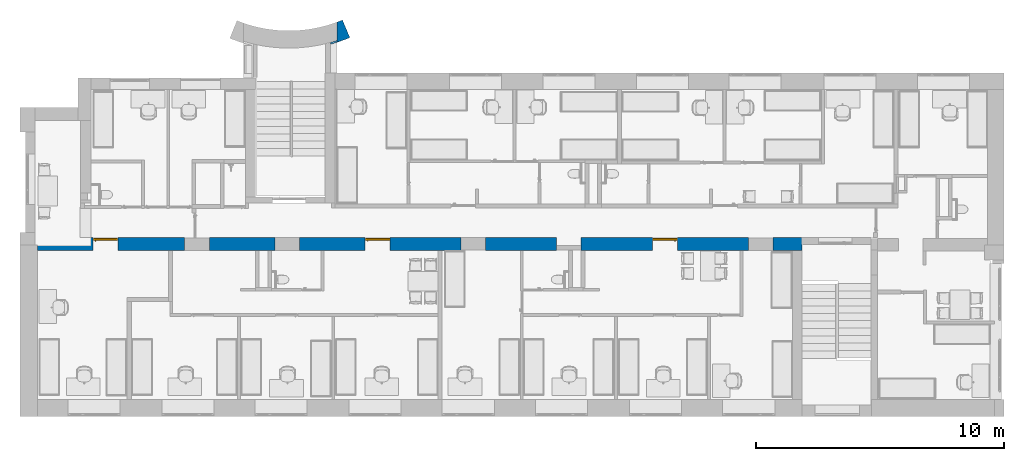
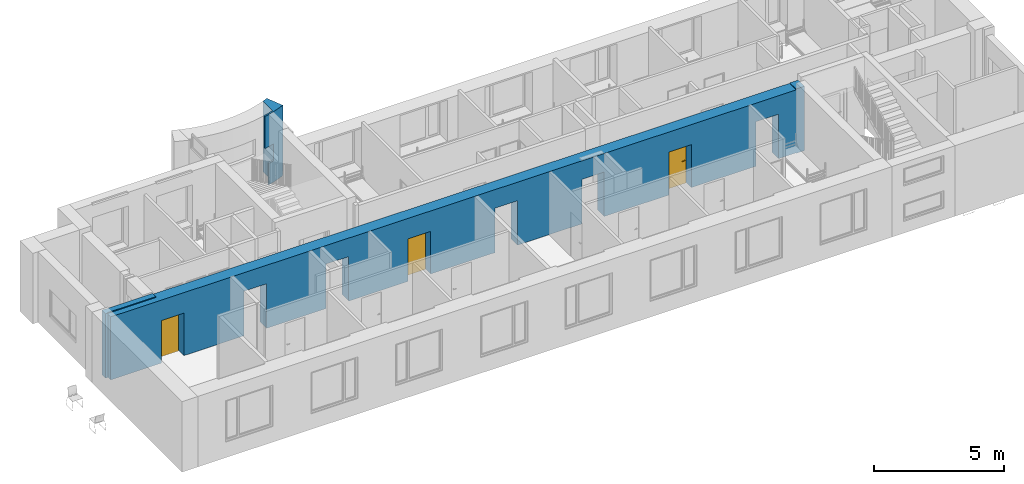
# One storey, part 16 of 48: 3 doors, 2 walls, 3 openings.
"""IFC2X3 building model written with IfcOpenShell, lengths in millimetres."""

from ifc_helpers import new_model, entity, si_unit, converted_unit, derived_unit, direction, frame, frame_2d, origin, place, context, subcontext, project, spatial, rectangle, extrude, faceted_brep, source, transform, mapped, material, material_list, layer, layer_set, type_object, type_shapes, element, fill, save


model = new_model("IFC2X3")

# Units and contexts
model_context = context("Model", 3, precision=0.01, world=origin(), true_north=direction((6.12303176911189e-17, 1.0)))
body_context = subcontext(model_context, "Body", "Model", "MODEL_VIEW")
ifc_project = project(units=[si_unit("LENGTHUNIT", "METRE", prefix="MILLI"), si_unit("AREAUNIT", "SQUARE_METRE"), si_unit("VOLUMEUNIT", "CUBIC_METRE"), converted_unit("PLANEANGLEUNIT", "DEGREE", entity("IfcRatioMeasure", 0.0174532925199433), si_unit("PLANEANGLEUNIT", "RADIAN"), dimensions=[0, 0, 0, 0, 0, 0, 0]), si_unit("MASSUNIT", "GRAM", prefix="KILO"), derived_unit("MASSDENSITYUNIT", [(si_unit("MASSUNIT", "GRAM", prefix="KILO"), 1), (si_unit("LENGTHUNIT", "METRE"), -3)]), si_unit("TIMEUNIT", "SECOND"), si_unit("FREQUENCYUNIT", "HERTZ"), si_unit("THERMODYNAMICTEMPERATUREUNIT", "DEGREE_CELSIUS"), derived_unit("THERMALTRANSMITTANCEUNIT", [(si_unit("MASSUNIT", "GRAM", prefix="KILO"), 1), (si_unit("THERMODYNAMICTEMPERATUREUNIT", "KELVIN"), -1), (si_unit("TIMEUNIT", "SECOND"), -3)]), derived_unit("VOLUMETRICFLOWRATEUNIT", [(si_unit("LENGTHUNIT", "METRE"), 3), (si_unit("TIMEUNIT", "SECOND"), -1)]), si_unit("ELECTRICCURRENTUNIT", "AMPERE"), si_unit("ELECTRICVOLTAGEUNIT", "VOLT"), si_unit("POWERUNIT", "WATT"), si_unit("FORCEUNIT", "NEWTON", prefix="KILO"), si_unit("ILLUMINANCEUNIT", "LUX"), si_unit("LUMINOUSFLUXUNIT", "LUMEN"), si_unit("LUMINOUSINTENSITYUNIT", "CANDELA"), derived_unit("USERDEFINED", [(si_unit("MASSUNIT", "GRAM", prefix="KILO"), -1), (si_unit("LENGTHUNIT", "METRE"), -2), (si_unit("TIMEUNIT", "SECOND"), 3), (si_unit("LUMINOUSFLUXUNIT", "LUMEN"), 1)]), derived_unit("LINEARVELOCITYUNIT", [(si_unit("LENGTHUNIT", "METRE"), 1), (si_unit("TIMEUNIT", "SECOND"), -1)]), si_unit("PRESSUREUNIT", "PASCAL"), derived_unit("USERDEFINED", [(si_unit("LENGTHUNIT", "METRE"), -2), (si_unit("MASSUNIT", "GRAM", prefix="KILO"), 1), (si_unit("TIMEUNIT", "SECOND"), -2)]), derived_unit("LINEARFORCEUNIT", [(si_unit("MASSUNIT", "GRAM", prefix="KILO"), 1), (si_unit("LENGTHUNIT", "METRE"), 1), (si_unit("TIMEUNIT", "SECOND"), -2), (si_unit("LENGTHUNIT", "METRE"), -1)]), derived_unit("PLANARFORCEUNIT", [(si_unit("MASSUNIT", "GRAM", prefix="KILO"), 1), (si_unit("LENGTHUNIT", "METRE"), 1), (si_unit("TIMEUNIT", "SECOND"), -2), (si_unit("LENGTHUNIT", "METRE"), -2)])], contexts=[model_context])

# Site, building, storey
site_placement = place(None, origin())
site = spatial("IfcSite", under=ifc_project, at=site_placement, Name="Default", CompositionType="ELEMENT")
building_placement = place(site_placement, origin())
building = spatial("IfcBuilding", under=site, at=building_placement, Name="SMA ARH", CompositionType="ELEMENT")
storey_placement = place(building_placement, frame((0.0, 0.0, 6600.0)))
storey = spatial("IfcBuildingStorey", under=building, at=storey_placement, Name="3 Korrus", CompositionType="ELEMENT", Elevation=6599.99999999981)

# Wall
ifc_material_1 = material(Name="_ol.olev sein")
ifc_layer_1 = layer(ifc_material_1, 770.0)
ifc_layer_set_1 = layer_set([ifc_layer_1], Name="Basic Wall:Generic - 770mm")
wall_type_1 = type_object("IfcWallType", Name="Basic Wall:Generic - 770mm", PredefinedType="STANDARD", material=ifc_layer_set_1)
wall_1_placement = place(storey_placement, frame((12448.9734496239, 14937.1863077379, 0.0)))
element("IfcWall", 1, at=wall_1_placement, inside=storey, type_object=wall_type_1, Name="Basic Wall:Generic - 770mm", ObjectType="Basic Wall:Generic - 770mm", context=body_context, shape_type="Brep", body=[
    faceted_brep([(-602.786673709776, -540.584389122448, 3310.0), (-602.786673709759, -540.584389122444, 1800.0), (-828.973449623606, -600.013994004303, 1800.0), (-828.973449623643, -600.013994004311, 3310.0), (-378.973449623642, -472.761264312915, 3310.0), (-378.973449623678, -472.761264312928, 1800.0), (-828.973449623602, -674.876900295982, 3310.0), (-728.751367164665, -650.029625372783, 3310.0), (-628.960471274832, -623.557015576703, 3310.0), (-503.595459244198, -587.815741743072, 3310.0), (-378.967082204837, -549.496398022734, 3310.0), (-201.093594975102, -489.884888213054, 3310.0), (-25.0650910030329, -425.038182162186, 3310.0), (148.984988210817, -355.004891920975, 3310.0), (-148.984988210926, 355.004891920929, 3310.0), (-263.490039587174, 308.438006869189, 3310.0), (-378.973449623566, 264.433382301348, 3310.0), (-263.491884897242, 308.43728017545, 0.0), (-148.984988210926, 355.004891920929, 0.0), (148.98498821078, -355.00489192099, 0.0), (-25.068184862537, -425.039374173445, 0.0), (-201.091802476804, -489.884257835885, 0.0), (-378.969362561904, -549.49727269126, 0.0), (-503.577045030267, -587.810286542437, 0.0), (-628.973449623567, -623.560656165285, 0.0), (-628.973449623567, -620.553870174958, 0.0), (-628.973449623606, -547.928288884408, 0.0), (-503.582212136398, -511.646003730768, 0.0), (-378.973449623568, -472.761264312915, 0.0), (-378.973449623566, 264.433382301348, 0.0), (-503.59268185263, -587.814918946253, 1000.0), (-503.601693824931, -587.8175887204, 1800.0), (-378.973449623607, -549.498582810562, 1800.0), (-628.973449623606, -623.560656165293, 1000.0), (-628.973449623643, -623.560656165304, 1800.0), (-828.973449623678, -674.876900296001, 1800.0), (-728.754697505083, -650.030479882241, 1800.0), (-378.973449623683, -549.498582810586, 1000.0), (-148.984988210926, 355.004891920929, 651.494117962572), (-148.984988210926, 355.004891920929, 1655.0), (-148.984988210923, 355.004891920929, 2658.50588203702), (-287.588823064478, 299.012360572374, 823.966836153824), (-268.083666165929, 306.631359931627, 1655.0), (-378.973449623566, 264.433382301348, 1302.98823579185), (-378.973449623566, 264.433382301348, 2007.01176420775), (-287.588738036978, 299.012393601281, 2486.03471957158), (-628.973449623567, -547.928288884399, 1000.0), (-378.973449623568, -472.761264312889, 1000.0), (-503.582212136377, -511.646003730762, 1000.0)], [[[0, 1, 2, 3]], [[4, 5, 1, 0]], [[0, 3, 6, 7, 8, 9, 10, 11, 12, 13, 14, 15, 16, 4]], [[17, 18, 19, 20, 21, 22, 23, 24, 25, 26, 27, 28, 29]], [[30, 24, 23]], [[9, 31, 32]], [[30, 33, 24]], [[34, 31, 8]], [[6, 35, 36]], [[6, 36, 7]], [[7, 36, 34]], [[7, 34, 8]], [[31, 9, 8]], [[37, 23, 22]], [[37, 21, 20]], [[22, 21, 37]], [[12, 20, 19]], [[11, 10, 32]], [[10, 9, 32]], [[32, 37, 20]], [[12, 11, 32]], [[32, 20, 12]], [[19, 13, 12]], [[30, 23, 37]], [[14, 13, 19, 18, 38, 39, 40]], [[41, 42, 38]], [[42, 40, 39, 38]], [[43, 44, 42]], [[45, 15, 40]], [[41, 17, 29]], [[43, 41, 29]], [[41, 43, 42]], [[38, 18, 17]], [[45, 44, 16]], [[42, 44, 45]], [[15, 14, 40]], [[17, 41, 38]], [[42, 45, 40]], [[15, 45, 16]], [[46, 26, 25, 24, 33]], [[3, 2, 35, 6]], [[47, 37, 32, 5, 4, 16, 44, 43, 29, 28]], [[48, 46, 33, 30, 37, 47]], [[31, 34, 36, 35, 2, 1, 5, 32]], [[48, 27, 26, 46]], [[47, 28, 27, 48]]]),
])

# Wall, openings, doors
ifc_layer_2 = layer(ifc_material_1, 510.0)
ifc_layer_set_2 = layer_set([ifc_layer_2], Name="Basic Wall:Generic - 510mm")
wall_type_2 = type_object("IfcWallType", Name="Basic Wall:Generic - 510mm", PredefinedType="STANDARD", material=ifc_layer_set_2)
wall_2_placement = place(storey_placement, frame((-100.0, 6260.0, 0.0)))
wall_2 = element("IfcWall", 2, at=wall_2_placement, inside=storey, type_object=wall_type_2, Name="Basic Wall:Generic - 510mm", ObjectType="Basic Wall:Generic - 510mm", context=body_context, shape_type="Brep", body=[
    faceted_brep([(2348.0, -255.0, 2020.0), (3348.0, -255.0, 2020.0), (3348.0, -255.0, 20.0), (6030.0, -255.0, 20.0), (6030.0, -255.0, 2110.0), (7030.0, -255.0, 2110.0), (7030.0, -255.0, 20.0), (9675.0, -255.0, 20.0), (9675.0, -255.0, 2110.0), (10675.0, -255.0, 2110.0), (10675.0, -255.0, 20.0), (13318.0, -255.0, 20.0), (13318.0, -255.0, 2020.0), (14318.0, -255.0, 2020.0), (14318.0, -255.0, 20.0), (16258.0, -255.0, 20.0), (16420.5, -255.0, 20.0), (17175.0, -255.0, 20.0), (17175.0, -255.0, 2110.0), (18175.0, -255.0, 2110.0), (18175.0, -255.0, 20.0), (21030.0, -255.0, 20.0), (21030.0, -255.0, 2110.0), (22020.0, -255.0, 2110.0), (22020.0, -255.0, 20.0), (24903.9550000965, -255.0, 20.0), (24903.9550000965, -255.0, 2040.0), (25903.9550000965, -255.0, 2040.0), (25903.9550000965, -255.0, 20.0), (28765.0, -255.0, 20.0), (28765.0, -255.0, 2110.0), (29765.0, -255.0, 2110.0), (29765.0, -255.0, 20.0), (30550.0, -255.0, 20.0), (30550.0, -255.0, 0.0), (30930.0, -255.0, 0.0), (30930.0, -255.0, 3020.0), (30550.0, -255.0, 3020.0), (30550.0, -255.0, 2980.0), (9540.0, -255.0, 2980.0), (9390.0, -255.0, 2980.0), (100.0, -255.0, 2980.0), (100.0, -255.0, 20.0), (2348.0, -255.0, 20.0), (0.0, 255.0, 0.0), (0.0, 255.0, 3020.0), (2265.0, 255.0, 3020.0), (2265.0, 255.0, 2980.0), (30930.0, 255.0, 2980.0), (30930.0, 255.0, 20.0), (29765.0, 255.0, 20.0), (29765.0, 255.0, 2110.0), (28765.0, 255.0, 2110.0), (28765.0, 255.0, 20.0), (25903.9550000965, 255.0, 20.0), (25903.9550000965, 255.0, 2040.0), (24903.9550000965, 255.0, 2040.0), (24903.9550000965, 255.0, 20.0), (22020.0, 255.0, 20.0), (22020.0, 255.0, 2110.0), (21030.0, 255.0, 2110.0), (21030.0, 255.0, 20.0), (18175.0, 255.0, 20.0), (18175.0, 255.0, 2110.0), (17175.0, 255.0, 2110.0), (17175.0, 255.0, 20.0), (14318.0, 255.0, 20.0), (14318.0, 255.0, 2020.0), (13318.0, 255.0, 2020.0), (13318.0, 255.0, 20.0), (10675.0, 255.0, 20.0), (10675.0, 255.0, 2110.0), (9675.0, 255.0, 2110.0), (9675.0, 255.0, 20.0), (7030.0, 255.0, 20.0), (7030.0, 255.0, 2110.0), (6497.82130046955, 255.0, 2110.0), (6335.32130046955, 255.0, 2110.0), (6030.0, 255.0, 2110.0), (6030.0, 255.0, 20.0), (3348.0, 255.0, 20.0), (3348.0, 255.0, 2020.0), (2348.0, 255.0, 2020.0), (2348.0, 255.0, 20.0), (2265.0, 255.0, 20.0), (2265.0, 255.0, 0.0), (30550.0, 250.0, 0.0), (30930.0, 250.0, 0.0), (30930.0, -20.0, 0.0), (30930.0, 230.0, 3020.0), (30550.0, 230.0, 3020.0), (17175.0, -250.0, 2110.0), (18175.0, -250.0, 2110.0), (6030.0, 250.0, 2110.0), (7030.0, 250.0, 2110.0), (28765.0, 250.0, 2110.0), (29765.0, 250.0, 2110.0), (30930.0, 250.0, 20.0), (30550.0, 250.0, 20.0), (100.0, -15.0, 20.0), (100.0, -35.0, 20.0), (100.0, -35.0, 0.0), (100.0, -15.0, 0.0), (2265.0, -15.0, 20.0), (2265.0, -15.0, 0.0), (100.0, -35.0, 2980.0), (100.0, -35.0, 3020.0), (0.0, -35.0, 3020.0), (0.0, -35.0, 0.0), (30930.0, 230.0, 2980.0), (2265.0, 5.0, 2980.0), (100.0, 5.0, 2980.0), (30550.0, 230.0, 2980.0), (100.0, 5.0, 3020.0), (2265.0, 5.0, 3020.0)], [[[0, 1, 2, 3, 4, 5, 6, 7, 8, 9, 10, 11, 12, 13, 14, 15, 16, 17, 18, 19, 20, 21, 22, 23, 24, 25, 26, 27, 28, 29, 30, 31, 32, 33, 34, 35, 36, 37, 38, 39, 40, 41, 42, 43]], [[44, 45, 46, 47, 48, 49, 50, 51, 52, 53, 54, 55, 56, 57, 58, 59, 60, 61, 62, 63, 64, 65, 66, 67, 68, 69, 70, 71, 72, 73, 74, 75, 76, 77, 78, 79, 80, 81, 82, 83, 84, 85]], [[35, 34, 86, 87, 88]], [[37, 36, 89, 90]], [[1, 81, 80, 2]], [[1, 0, 82, 81]], [[82, 0, 43, 83]], [[13, 67, 66, 14]], [[13, 12, 68, 67]], [[68, 12, 11, 69]], [[56, 26, 25, 57]], [[26, 56, 55, 27]], [[27, 55, 54, 28]], [[18, 91, 64, 63, 92, 19]], [[64, 91, 18, 17, 65]], [[19, 92, 63, 62, 20]], [[22, 60, 59, 23]], [[60, 22, 21, 61]], [[8, 72, 71, 9]], [[72, 8, 7, 73]], [[9, 71, 70, 10]], [[4, 93, 78, 77, 76, 75, 94, 5]], [[78, 93, 4, 3, 79]], [[5, 94, 75, 74, 6]], [[30, 95, 52, 51, 96, 31]], [[52, 95, 30, 29, 53]], [[31, 96, 51, 50, 32]], [[23, 59, 58, 24]], [[97, 98, 33, 32, 50, 49]], [[99, 100, 101, 102]], [[103, 99, 102, 104]], [[33, 98, 86, 34]], [[41, 105, 100, 42]], [[106, 107, 108, 101, 100, 105]], [[45, 44, 108, 107]], [[36, 35, 88, 87, 97, 49, 48, 109, 89]], [[98, 97, 87, 86]], [[84, 103, 104, 85]], [[110, 111, 105, 41, 40, 39, 38, 112, 109, 48, 47]], [[105, 111, 113, 106]], [[111, 110, 114, 113]], [[110, 47, 46, 114]], [[109, 112, 90, 89]], [[112, 38, 37, 90]], [[99, 103, 84, 83, 43, 42, 100]], [[3, 2, 80, 79]], [[7, 6, 74, 73]], [[11, 10, 70, 69]], [[17, 16, 15, 14, 66, 65]], [[21, 20, 62, 61]], [[25, 24, 58, 57]], [[29, 28, 54, 53]], [[45, 107, 106, 113, 114, 46]], [[101, 108, 44, 85, 104, 102]]]),
])
opening_1_placement = place(wall_2_placement, frame((3348.0, 255.0, 0.0)))
opening_1 = element("IfcOpeningElement", 3, at=opening_1_placement, cuts=wall_2, Name="SMA_D01, 1-poolne:SU-P-09 - 1000x2020:1", ObjectType="Opening", context=body_context, shape_type="SweptSolid", body=[
    extrude(rectangle(XDim=2019.99999999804, YDim=1000.0, at=frame_2d((1009.99999999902, 500.0), x_axis=(1.0, 0.0))), frame((0.0, 0.0, 0.0), z_axis=(0.0, -1.0, 0.0), x_axis=(0.0, 0.0, 1.0)), (0.0, 0.0, 1.0), 510.0),
])
opening_2_placement = place(wall_2_placement, frame((14318.0, 255.0, 0.0)))
opening_2 = element("IfcOpeningElement", 4, at=opening_2_placement, cuts=wall_2, Name="SMA_D01, 1-poolne:SU-P-04 - 1000x2020 EI-30:1", ObjectType="Opening", context=body_context, shape_type="SweptSolid", body=[
    extrude(rectangle(XDim=2019.99999999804, YDim=1000.0, at=frame_2d((1009.99999999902, 500.000000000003), x_axis=(1.0, 0.0))), frame((0.0, 0.0, 0.0), z_axis=(0.0, -1.0, 0.0), x_axis=(0.0, 0.0, 1.0)), (0.0, 0.0, 1.0), 510.0),
])
opening_3_placement = place(wall_2_placement, frame((25903.9550000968, 255.0, 0.0)))
opening_3 = element("IfcOpeningElement", 5, at=opening_3_placement, cuts=wall_2, Name="SMA_D01, 1-poolne:SU-P-04 - 1000x2040 EI-30:1", ObjectType="Opening", context=body_context, shape_type="SweptSolid", body=[
    extrude(rectangle(XDim=2039.99999999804, YDim=1000.0, at=frame_2d((1019.99999999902, 500.0), x_axis=(1.0, 0.0))), frame((0.0, 0.0, 0.0), z_axis=(0.0, -1.0, 0.0), x_axis=(0.0, 0.0, 1.0)), (0.0, 0.0, 1.0), 510.0),
])
ifc_material_2 = material(Name="EST. Metall. Alumiinium. Värvitud. RAL7023 (Concrete grey)")
ifc_material_3 = material(Name="EST. Klaas. 3x. Default")
ifc_material_4 = material(Name="<Unnamed>")
ifc_material_list_1 = material_list([ifc_material_3, ifc_material_4, ifc_material_2, ifc_material_2, ifc_material_4, ifc_material_2, ifc_material_4])
door_style_1 = type_object("IfcDoorStyle", Name="SMA_D01, 1-poolne:SU-P-09 - 1000x2020", ConstructionType="NOTDEFINED", OperationType="NOTDEFINED", ParameterTakesPrecedence=False, Sizeable=False, material=ifc_material_list_1)
shared_shape_1 = source(origin(), body_context, "Body", "Brep", [
    faceted_brep([(890.0, 20.0, 1112.5), (795.0, 20.0, 1112.5), (795.0, 15.0, 1112.5), (915.0, 15.0, 1112.5), (915.0, 58.0, 1112.5), (890.0, 58.0, 1112.5), (890.0, 20.0, 1087.5), (890.0, 58.0, 1087.5), (915.0, 58.0, 1087.5), (915.0, 15.0, 1087.5), (795.0, 15.0, 1087.5), (795.0, 20.0, 1087.5)], [[[0, 1, 2, 3, 4, 5]], [[6, 7, 8, 9, 10, 11]], [[5, 7, 6, 0]], [[4, 8, 7, 5]], [[3, 9, 8, 4]], [[2, 10, 9, 3]], [[1, 11, 10, 2]], [[0, 6, 11, 1]]]),
    faceted_brep([(877.500000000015, 58.0, 1137.5), (927.500000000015, 58.0, 1137.5), (927.500000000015, 60.0, 1137.5), (877.500000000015, 60.0, 1137.5), (877.500000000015, 58.0, 1017.5), (877.500000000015, 60.0, 1017.5), (927.500000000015, 60.0, 1017.5), (927.500000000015, 58.0, 1017.5)], [[[0, 1, 2, 3]], [[4, 5, 6, 7]], [[3, 5, 4, 0]], [[2, 6, 5, 3]], [[1, 7, 6, 2]], [[0, 4, 7, 1]]]),
    faceted_brep([(890.0, 150.0, 1112.5), (890.0, 112.0, 1112.5), (915.0, 112.0, 1112.5), (915.0, 155.0, 1112.5), (795.0, 155.0, 1112.5), (795.0, 150.0, 1112.5), (890.0, 150.0, 1087.5), (795.0, 150.0, 1087.5), (795.0, 155.0, 1087.5), (915.0, 155.0, 1087.5), (915.0, 112.0, 1087.5), (890.0, 112.0, 1087.5)], [[[0, 1, 2, 3, 4, 5]], [[6, 7, 8, 9, 10, 11]], [[1, 0, 6, 11]], [[2, 1, 11, 10]], [[3, 2, 10, 9]], [[4, 3, 9, 8]], [[5, 4, 8, 7]], [[0, 5, 7, 6]]]),
    faceted_brep([(877.500000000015, 112.0, 1137.5), (877.500000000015, 110.0, 1137.5), (927.500000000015, 110.0, 1137.5), (927.500000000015, 112.0, 1137.5), (877.500000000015, 112.0, 1017.5), (927.500000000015, 112.0, 1017.5), (927.500000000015, 110.0, 1017.5), (877.500000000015, 110.0, 1017.5)], [[[0, 1, 2, 3]], [[4, 5, 6, 7]], [[1, 0, 4, 7]], [[2, 1, 7, 6]], [[3, 2, 6, 5]], [[0, 3, 5, 4]]]),
    faceted_brep([(50.0, 20.0, 30.0), (50.0, 60.0, 30.0), (50.0, 60.0, 20.0), (50.0, 60.0, 0.0), (50.0, 20.0, 0.0), (950.0, 20.0, 30.0), (950.0, 20.0, 0.0), (950.0, 60.0, 0.0), (950.0, 60.0, 20.0), (950.0, 60.0, 30.0), (35.0, 60.0, 0.0), (35.0, 110.0, 0.0), (965.0, 110.0, 0.0), (965.0, 60.0, 0.0), (35.0, 110.0, 20.0), (35.0, 60.0, 20.0), (965.0, 110.0, 20.0), (965.0, 60.0, 20.0)], [[[0, 1, 2, 3, 4]], [[5, 6, 7, 8, 9]], [[4, 6, 5, 0]], [[3, 10, 11, 12, 13, 7, 6, 4]], [[9, 8, 2, 1]], [[0, 5, 9, 1]], [[14, 11, 10, 15]], [[16, 17, 13, 12]], [[15, 2, 8, 17, 16, 14]], [[10, 3, 2, 15]], [[14, 16, 12, 11]], [[17, 8, 7, 13]]]),
    faceted_brep([(10.0, 20.0, 0.0), (10.0, 110.0, 0.0), (35.0, 110.0, 0.0), (35.0, 60.0, 0.0), (50.0, 60.0, 0.0), (50.0, 20.0, 0.0), (50.0, 20.0, 1970.0), (950.0, 20.0, 1970.0), (950.0, 20.0, 0.0), (990.0, 20.0, 0.0), (990.0, 20.0, 2010.0), (10.0, 20.0, 2010.0), (50.0, 60.0, 1970.0), (35.0, 60.0, 1985.0), (965.0, 60.0, 1985.0), (965.0, 60.0, 0.0), (950.0, 60.0, 0.0), (950.0, 60.0, 1970.0), (35.0, 110.0, 1985.0), (10.0, 110.0, 2010.0), (990.0, 110.0, 2010.0), (990.0, 110.0, 0.0), (965.0, 110.0, 0.0), (965.0, 110.0, 1985.0)], [[[0, 1, 2, 3, 4, 5]], [[5, 6, 7, 8, 9, 10, 11, 0]], [[4, 12, 6, 5]], [[3, 13, 14, 15, 16, 17, 12, 4]], [[2, 18, 13, 3]], [[1, 19, 20, 21, 22, 23, 18, 2]], [[0, 11, 19, 1]], [[9, 21, 20, 10]], [[8, 16, 15, 22, 21, 9]], [[7, 17, 16, 8]], [[14, 23, 22, 15]], [[6, 12, 17, 7]], [[13, 18, 23, 14]], [[10, 20, 19, 11]]]),
    faceted_brep([(965.0, 60.0, 1985.0), (35.0, 60.0, 1985.0), (35.0, 60.0, 20.0), (965.0, 60.0, 20.0), (965.0, 110.0, 1985.0), (965.0, 110.0, 20.0), (35.0, 110.0, 20.0), (35.0, 110.0, 1985.0)], [[[0, 1, 2, 3]], [[4, 5, 6, 7]], [[3, 5, 4, 0]], [[2, 6, 5, 3]], [[1, 7, 6, 2]], [[0, 4, 7, 1]]]),
])
type_shapes(door_style_1, [shared_shape_1])
door_1_placement = place(opening_1_placement, frame((0.0, 0.0, 0.0), z_axis=(0.0, 0.0, 1.0), x_axis=(-1.0, 0.0, 0.0)))
door_1 = element("IfcDoor", 6, at=door_1_placement, inside=storey, type_object=door_style_1, material=ifc_material_2, Name="SMA_D01, 1-poolne:SU-P-09 - 1000x2020", ObjectType="SMA_D01, 1-poolne:SU-P-09 - 1000x2020", OverallHeight=2019.99999999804, OverallWidth=1000.0, context=body_context, shape_type="MappedRepresentation", body=[
    mapped(shared_shape_1, transform((0.0, 0.0, 0.0), scale=1.0)),
])
fill(opening_1, door_1)
ifc_material_list_2 = material_list([ifc_material_2, ifc_material_4, ifc_material_3, ifc_material_4, ifc_material_2, ifc_material_2, ifc_material_4])
door_style_2 = type_object("IfcDoorStyle", Name="SMA_D01, 1-poolne:SU-P-04 - 1000x2020 EI-30", ConstructionType="NOTDEFINED", OperationType="NOTDEFINED", ParameterTakesPrecedence=False, Sizeable=False, material=ifc_material_list_2)
shared_shape_2 = source(origin(), body_context, "Body", "Brep", [
    faceted_brep([(890.0, 20.0, 1112.5), (795.0, 20.0, 1112.5), (795.0, 15.0, 1112.5), (915.0, 15.0, 1112.5), (915.0, 58.0, 1112.5), (890.0, 58.0, 1112.5), (890.0, 20.0, 1087.5), (890.0, 58.0, 1087.5), (915.0, 58.0, 1087.5), (915.0, 15.0, 1087.5), (795.0, 15.0, 1087.5), (795.0, 20.0, 1087.5)], [[[0, 1, 2, 3, 4, 5]], [[6, 7, 8, 9, 10, 11]], [[5, 7, 6, 0]], [[4, 8, 7, 5]], [[3, 9, 8, 4]], [[2, 10, 9, 3]], [[1, 11, 10, 2]], [[0, 6, 11, 1]]]),
    faceted_brep([(877.500000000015, 58.0, 1137.5), (927.500000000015, 58.0, 1137.5), (927.500000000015, 60.0, 1137.5), (877.500000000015, 60.0, 1137.5), (877.500000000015, 58.0, 1017.5), (877.500000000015, 60.0, 1017.5), (927.500000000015, 60.0, 1017.5), (927.500000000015, 58.0, 1017.5)], [[[0, 1, 2, 3]], [[4, 5, 6, 7]], [[3, 5, 4, 0]], [[2, 6, 5, 3]], [[1, 7, 6, 2]], [[0, 4, 7, 1]]]),
    faceted_brep([(890.0, 150.0, 1112.5), (890.0, 112.0, 1112.5), (915.0, 112.0, 1112.5), (915.0, 155.0, 1112.5), (795.0, 155.0, 1112.5), (795.0, 150.0, 1112.5), (890.0, 150.0, 1087.5), (795.0, 150.0, 1087.5), (795.0, 155.0, 1087.5), (915.0, 155.0, 1087.5), (915.0, 112.0, 1087.5), (890.0, 112.0, 1087.5)], [[[0, 1, 2, 3, 4, 5]], [[6, 7, 8, 9, 10, 11]], [[1, 0, 6, 11]], [[2, 1, 11, 10]], [[3, 2, 10, 9]], [[4, 3, 9, 8]], [[5, 4, 8, 7]], [[0, 5, 7, 6]]]),
    faceted_brep([(877.500000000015, 112.0, 1137.5), (877.500000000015, 110.0, 1137.5), (927.500000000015, 110.0, 1137.5), (927.500000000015, 112.0, 1137.5), (877.500000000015, 112.0, 1017.5), (927.500000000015, 112.0, 1017.5), (927.500000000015, 110.0, 1017.5), (877.500000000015, 110.0, 1017.5)], [[[0, 1, 2, 3]], [[4, 5, 6, 7]], [[1, 0, 4, 7]], [[2, 1, 7, 6]], [[3, 2, 6, 5]], [[0, 3, 5, 4]]]),
    faceted_brep([(50.0, 20.0, 30.0), (50.0, 60.0, 30.0), (50.0, 60.0, 20.0), (50.0, 60.0, 0.0), (50.0, 20.0, 0.0), (950.0, 20.0, 30.0), (950.0, 20.0, 0.0), (950.0, 60.0, 0.0), (950.0, 60.0, 20.0), (950.0, 60.0, 30.0), (35.0, 60.0, 0.0), (35.0, 110.0, 0.0), (965.0, 110.0, 0.0), (965.0, 60.0, 0.0), (35.0, 110.0, 20.0), (35.0, 60.0, 20.0), (965.0, 110.0, 20.0), (965.0, 60.0, 20.0)], [[[0, 1, 2, 3, 4]], [[5, 6, 7, 8, 9]], [[4, 6, 5, 0]], [[3, 10, 11, 12, 13, 7, 6, 4]], [[9, 8, 2, 1]], [[0, 5, 9, 1]], [[14, 11, 10, 15]], [[16, 17, 13, 12]], [[15, 2, 8, 17, 16, 14]], [[10, 3, 2, 15]], [[14, 16, 12, 11]], [[17, 8, 7, 13]]]),
    faceted_brep([(10.0, 20.0, 0.0), (10.0, 110.0, 0.0), (35.0, 110.0, 0.0), (35.0, 60.0, 0.0), (50.0, 60.0, 0.0), (50.0, 20.0, 0.0), (50.0, 20.0, 1970.0), (950.0, 20.0, 1970.0), (950.0, 20.0, 0.0), (990.0, 20.0, 0.0), (990.0, 20.0, 2010.0), (10.0, 20.0, 2010.0), (50.0, 60.0, 1970.0), (35.0, 60.0, 1985.0), (965.0, 60.0, 1985.0), (965.0, 60.0, 0.0), (950.0, 60.0, 0.0), (950.0, 60.0, 1970.0), (35.0, 110.0, 1985.0), (10.0, 110.0, 2010.0), (990.0, 110.0, 2010.0), (990.0, 110.0, 0.0), (965.0, 110.0, 0.0), (965.0, 110.0, 1985.0)], [[[0, 1, 2, 3, 4, 5]], [[5, 6, 7, 8, 9, 10, 11, 0]], [[4, 12, 6, 5]], [[3, 13, 14, 15, 16, 17, 12, 4]], [[2, 18, 13, 3]], [[1, 19, 20, 21, 22, 23, 18, 2]], [[0, 11, 19, 1]], [[9, 21, 20, 10]], [[8, 16, 15, 22, 21, 9]], [[7, 17, 16, 8]], [[14, 23, 22, 15]], [[6, 12, 17, 7]], [[13, 18, 23, 14]], [[10, 20, 19, 11]]]),
    faceted_brep([(965.0, 60.0, 1985.0), (35.0, 60.0, 1985.0), (35.0, 60.0, 20.0), (965.0, 60.0, 20.0), (965.0, 110.0, 1985.0), (965.0, 110.0, 20.0), (35.0, 110.0, 20.0), (35.0, 110.0, 1985.0)], [[[0, 1, 2, 3]], [[4, 5, 6, 7]], [[3, 5, 4, 0]], [[2, 6, 5, 3]], [[1, 7, 6, 2]], [[0, 4, 7, 1]]]),
])
type_shapes(door_style_2, [shared_shape_2])
door_2_placement = place(opening_2_placement, frame((0.0, 0.0, 0.0), z_axis=(0.0, 0.0, 1.0), x_axis=(-1.0, 0.0, 0.0)))
door_2 = element("IfcDoor", 7, at=door_2_placement, inside=storey, type_object=door_style_2, material=ifc_material_2, Name="SMA_D01, 1-poolne:SU-P-04 - 1000x2020 EI-30", ObjectType="SMA_D01, 1-poolne:SU-P-04 - 1000x2020 EI-30", OverallHeight=2019.99999999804, OverallWidth=1000.0, context=body_context, shape_type="MappedRepresentation", body=[
    mapped(shared_shape_2, transform((0.0, 0.0, 0.0), scale=1.0)),
])
fill(opening_2, door_2)
ifc_material_list_3 = material_list([ifc_material_3, ifc_material_4, ifc_material_2, ifc_material_4, ifc_material_4, ifc_material_2, ifc_material_2])
door_style_3 = type_object("IfcDoorStyle", Name="SMA_D01, 1-poolne:SU-P-04 - 1000x2040 EI-30", ConstructionType="NOTDEFINED", OperationType="NOTDEFINED", ParameterTakesPrecedence=False, Sizeable=False, material=ifc_material_list_3)
shared_shape_3 = source(origin(), body_context, "Body", "Brep", [
    faceted_brep([(110.0, 20.0, 1112.5), (110.0, 58.0, 1112.5), (85.0, 58.0, 1112.5), (85.0, 15.0, 1112.5), (205.0, 15.0, 1112.5), (205.0, 20.0, 1112.5), (110.0, 20.0, 1087.5), (205.0, 20.0, 1087.5), (205.0, 15.0, 1087.5), (85.0, 15.0, 1087.5), (85.0, 58.0, 1087.5), (110.0, 58.0, 1087.5)], [[[0, 1, 2, 3, 4, 5]], [[6, 7, 8, 9, 10, 11]], [[1, 0, 6, 11]], [[2, 1, 11, 10]], [[3, 2, 10, 9]], [[4, 3, 9, 8]], [[5, 4, 8, 7]], [[0, 5, 7, 6]]]),
    faceted_brep([(122.5, 58.0, 1137.5), (122.5, 60.0, 1137.5), (72.4999999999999, 60.0, 1137.5), (72.4999999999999, 58.0, 1137.5), (122.5, 58.0, 1017.5), (72.4999999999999, 58.0, 1017.5), (72.4999999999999, 60.0, 1017.5), (122.5, 60.0, 1017.5)], [[[0, 1, 2, 3]], [[4, 5, 6, 7]], [[1, 0, 4, 7]], [[2, 1, 7, 6]], [[3, 2, 6, 5]], [[0, 3, 5, 4]]]),
    faceted_brep([(110.0, 150.0, 1112.5), (205.0, 150.0, 1112.5), (205.0, 155.0, 1112.5), (85.0, 155.0, 1112.5), (85.0, 112.0, 1112.5), (110.0, 112.0, 1112.5), (110.0, 150.0, 1087.5), (110.0, 112.0, 1087.5), (85.0, 112.0, 1087.5), (85.0, 155.0, 1087.5), (205.0, 155.0, 1087.5), (205.0, 150.0, 1087.5)], [[[0, 1, 2, 3, 4, 5]], [[6, 7, 8, 9, 10, 11]], [[5, 7, 6, 0]], [[4, 8, 7, 5]], [[3, 9, 8, 4]], [[2, 10, 9, 3]], [[1, 11, 10, 2]], [[0, 6, 11, 1]]]),
    faceted_brep([(122.5, 112.0, 1137.5), (72.4999999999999, 112.0, 1137.5), (72.4999999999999, 110.0, 1137.5), (122.5, 110.0, 1137.5), (122.5, 112.0, 1017.5), (122.5, 110.0, 1017.5), (72.4999999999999, 110.0, 1017.5), (72.4999999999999, 112.0, 1017.5)], [[[0, 1, 2, 3]], [[4, 5, 6, 7]], [[3, 5, 4, 0]], [[2, 6, 5, 3]], [[1, 7, 6, 2]], [[0, 4, 7, 1]]]),
    faceted_brep([(950.0, 20.0, 30.0), (950.0, 20.0, 0.0), (950.0, 60.0, 0.0), (950.0, 60.0, 20.0), (950.0, 60.0, 30.0), (50.0, 20.0, 30.0), (50.0, 60.0, 30.0), (50.0, 60.0, 20.0), (50.0, 60.0, 0.0), (50.0, 20.0, 0.0), (35.0, 60.0, 0.0), (35.0, 110.0, 0.0), (965.0, 110.0, 0.0), (965.0, 60.0, 0.0), (965.0, 110.0, 20.0), (965.0, 60.0, 20.0), (35.0, 110.0, 20.0), (35.0, 60.0, 20.0)], [[[0, 1, 2, 3, 4]], [[5, 6, 7, 8, 9]], [[1, 0, 5, 9]], [[2, 1, 9, 8, 10, 11, 12, 13]], [[6, 4, 3, 7]], [[0, 4, 6, 5]], [[14, 15, 13, 12]], [[16, 11, 10, 17]], [[15, 14, 16, 17, 7, 3]], [[13, 15, 3, 2]], [[14, 12, 11, 16]], [[17, 10, 8, 7]]]),
    faceted_brep([(990.0, 20.0, 0.0), (950.0, 20.0, 0.0), (950.0, 60.0, 0.0), (965.0, 60.0, 0.0), (965.0, 110.0, 0.0), (990.0, 110.0, 0.0), (990.0, 20.0, 2030.0), (10.0, 20.0, 2030.0), (10.0, 20.0, 0.0), (50.0, 20.0, 0.0), (50.0, 20.0, 1990.0), (950.0, 20.0, 1990.0), (950.0, 60.0, 1990.0), (50.0, 60.0, 1990.0), (50.0, 60.0, 0.0), (35.0, 60.0, 0.0), (35.0, 60.0, 2005.0), (965.0, 60.0, 2005.0), (965.0, 110.0, 2005.0), (35.0, 110.0, 2005.0), (35.0, 110.0, 0.0), (10.0, 110.0, 0.0), (10.0, 110.0, 2030.0), (990.0, 110.0, 2030.0)], [[[0, 1, 2, 3, 4, 5]], [[1, 0, 6, 7, 8, 9, 10, 11]], [[2, 1, 11, 12]], [[3, 2, 12, 13, 14, 15, 16, 17]], [[4, 3, 17, 18]], [[5, 4, 18, 19, 20, 21, 22, 23]], [[0, 5, 23, 6]], [[8, 7, 22, 21]], [[9, 8, 21, 20, 15, 14]], [[10, 9, 14, 13]], [[16, 15, 20, 19]], [[11, 10, 13, 12]], [[17, 16, 19, 18]], [[7, 6, 23, 22]]]),
    faceted_brep([(35.0, 60.0, 2005.0), (35.0, 60.0, 20.0), (965.0, 60.0, 20.0), (965.0, 60.0, 2005.0), (35.0, 110.0, 2005.0), (965.0, 110.0, 2005.0), (965.0, 110.0, 20.0), (35.0, 110.0, 20.0)], [[[0, 1, 2, 3]], [[4, 5, 6, 7]], [[1, 0, 4, 7]], [[2, 1, 7, 6]], [[3, 2, 6, 5]], [[0, 3, 5, 4]]]),
])
type_shapes(door_style_3, [shared_shape_3])
door_3_placement = place(opening_3_placement, frame((0.0, 0.0, 0.0), z_axis=(0.0, 0.0, 1.0), x_axis=(-1.0, 0.0, 0.0)))
door_3 = element("IfcDoor", 8, at=door_3_placement, inside=storey, type_object=door_style_3, material=ifc_material_2, Name="SMA_D01, 1-poolne:SU-P-04 - 1000x2040 EI-30", ObjectType="SMA_D01, 1-poolne:SU-P-04 - 1000x2040 EI-30", OverallHeight=2039.99999999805, OverallWidth=999.999999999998, context=body_context, shape_type="MappedRepresentation", body=[
    mapped(shared_shape_3, transform((0.0, 0.0, 0.0), scale=1.0)),
])
fill(opening_3, door_3)

save(model, "model.ifc")
